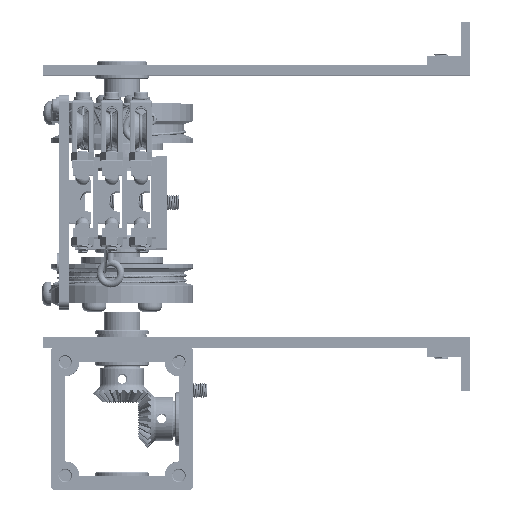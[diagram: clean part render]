
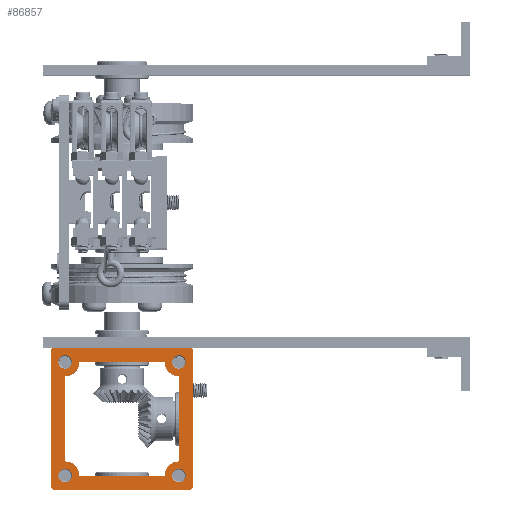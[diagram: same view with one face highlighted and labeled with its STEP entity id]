
A CAD part, top view. The second image highlights one B-rep face of the part: STEP entity #86857.
In plain terms, the highlighted planar face has unit normal (0, 0, 1) as drawn and (0, 0, -1) by its records, which use the part's own axes.
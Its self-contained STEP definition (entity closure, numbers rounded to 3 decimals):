
#75655=CARTESIAN_POINT('',(4.,8.,0.));
#75656=VERTEX_POINT('',#75655);
#75663=CARTESIAN_POINT('',(8.,4.,0.));
#75664=VERTEX_POINT('',#75663);
#75665=CARTESIAN_POINT('',(4.,4.,0.));
#75666=DIRECTION('',(1.,0.,0.));
#75667=DIRECTION('',(0.,0.,1.));
#75668=AXIS2_PLACEMENT_3D('',#75665,#75667,#75666);
#75669=CIRCLE('',#75668,4.);
#75670=EDGE_CURVE('',#75664,#75656,#75669,.T.);
#77447=CARTESIAN_POINT('',(4.,32.,0.));
#77448=VERTEX_POINT('',#77447);
#77449=CARTESIAN_POINT('',(8.,36.,0.));
#77450=VERTEX_POINT('',#77449);
#77451=CARTESIAN_POINT('',(4.,36.,0.));
#77452=DIRECTION('',(0.,-1.,0.));
#77453=DIRECTION('',(0.,-0.,1.));
#77454=AXIS2_PLACEMENT_3D('',#77451,#77453,#77452);
#77455=CIRCLE('',#77454,4.);
#77456=EDGE_CURVE('',#77448,#77450,#77455,.T.);
#78998=CARTESIAN_POINT('',(32.,36.,0.));
#78999=VERTEX_POINT('',#78998);
#79000=CARTESIAN_POINT('',(36.,32.,0.));
#79001=VERTEX_POINT('',#79000);
#79002=CARTESIAN_POINT('',(36.,36.,0.));
#79003=DIRECTION('',(-1.,0.,0.));
#79004=DIRECTION('',(0.,-0.,1.));
#79005=AXIS2_PLACEMENT_3D('',#79002,#79004,#79003);
#79006=CIRCLE('',#79005,4.);
#79007=EDGE_CURVE('',#78999,#79001,#79006,.T.);
#80556=CARTESIAN_POINT('',(36.,8.,0.));
#80557=VERTEX_POINT('',#80556);
#80558=CARTESIAN_POINT('',(32.,4.,0.));
#80559=VERTEX_POINT('',#80558);
#80560=CARTESIAN_POINT('',(36.,4.,0.));
#80561=DIRECTION('',(0.,1.,0.));
#80562=DIRECTION('',(0.,0.,1.));
#80563=AXIS2_PLACEMENT_3D('',#80560,#80562,#80561);
#80564=CIRCLE('',#80563,4.);
#80565=EDGE_CURVE('',#80557,#80559,#80564,.T.);
#82372=CARTESIAN_POINT('',(1.,0.,0.));
#82373=VERTEX_POINT('',#82372);
#82380=CARTESIAN_POINT('',(39.,0.,0.));
#82381=VERTEX_POINT('',#82380);
#82382=CARTESIAN_POINT('',(1.,0.,0.));
#82383=DIRECTION('',(1.,0.,0.));
#82384=VECTOR('',#82383,38.);
#82385=LINE('',#82382,#82384);
#82386=EDGE_CURVE('',#82373,#82381,#82385,.T.);
#82417=CARTESIAN_POINT('',(0.,1.,0.));
#82418=VERTEX_POINT('',#82417);
#82419=CARTESIAN_POINT('',(1.,1.,0.));
#82420=DIRECTION('',(-1.,0.,0.));
#82421=DIRECTION('',(-0.,0.,1.));
#82422=AXIS2_PLACEMENT_3D('',#82419,#82421,#82420);
#82423=CIRCLE('',#82422,1.);
#82424=EDGE_CURVE('',#82418,#82373,#82423,.T.);
#82450=CARTESIAN_POINT('',(40.,1.,0.));
#82451=VERTEX_POINT('',#82450);
#82452=CARTESIAN_POINT('',(39.,1.,0.));
#82453=DIRECTION('',(0.,-1.,0.));
#82454=DIRECTION('',(0.,-0.,1.));
#82455=AXIS2_PLACEMENT_3D('',#82452,#82454,#82453);
#82456=CIRCLE('',#82455,1.);
#82457=EDGE_CURVE('',#82381,#82451,#82456,.T.);
#82483=CARTESIAN_POINT('',(40.,39.,0.));
#82484=VERTEX_POINT('',#82483);
#82485=CARTESIAN_POINT('',(39.,40.,0.));
#82486=VERTEX_POINT('',#82485);
#82487=CARTESIAN_POINT('',(39.,39.,0.));
#82488=DIRECTION('',(1.,0.,0.));
#82489=DIRECTION('',(0.,0.,1.));
#82490=AXIS2_PLACEMENT_3D('',#82487,#82489,#82488);
#82491=CIRCLE('',#82490,1.);
#82492=EDGE_CURVE('',#82484,#82486,#82491,.T.);
#82525=CARTESIAN_POINT('',(1.,40.,0.));
#82526=VERTEX_POINT('',#82525);
#82527=CARTESIAN_POINT('',(0.,39.,0.));
#82528=VERTEX_POINT('',#82527);
#82529=CARTESIAN_POINT('',(1.,39.,0.));
#82530=DIRECTION('',(0.,1.,0.));
#82531=DIRECTION('',(0.,0.,1.));
#82532=AXIS2_PLACEMENT_3D('',#82529,#82531,#82530);
#82533=CIRCLE('',#82532,1.);
#82534=EDGE_CURVE('',#82526,#82528,#82533,.T.);
#85465=CARTESIAN_POINT('',(39.,40.,0.));
#85466=DIRECTION('',(-1.,0.,0.));
#85467=VECTOR('',#85466,38.);
#85468=LINE('',#85465,#85467);
#85469=EDGE_CURVE('',#82486,#82526,#85468,.T.);
#85507=CARTESIAN_POINT('',(8.,36.,0.));
#85508=DIRECTION('',(1.,0.,0.));
#85509=VECTOR('',#85508,24.);
#85510=LINE('',#85507,#85509);
#85511=EDGE_CURVE('',#77450,#78999,#85510,.T.);
#86763=CARTESIAN_POINT('',(20.,20.,0.));
#86764=DIRECTION('',(1.,0.,0.));
#86765=DIRECTION('',(0.,0.,1.));
#86766=AXIS2_PLACEMENT_3D('',#86763,#86765,#86764);
#86767=PLANE('',#86766);
#86768=CARTESIAN_POINT('',(40.,1.,0.));
#86769=DIRECTION('',(0.,1.,0.));
#86770=VECTOR('',#86769,38.);
#86771=LINE('',#86768,#86770);
#86772=EDGE_CURVE('',#82451,#82484,#86771,.T.);
#86773=ORIENTED_EDGE('E2',*,*,#86772,.T.);
#86774=ORIENTED_EDGE('E2',*,*,#82492,.T.);
#86775=ORIENTED_EDGE('E2',*,*,#85469,.T.);
#86776=ORIENTED_EDGE('E2',*,*,#82534,.T.);
#86777=CARTESIAN_POINT('',(0.,39.,0.));
#86778=DIRECTION('',(0.,-1.,0.));
#86779=VECTOR('',#86778,38.);
#86780=LINE('',#86777,#86779);
#86781=EDGE_CURVE('',#82528,#82418,#86780,.T.);
#86782=ORIENTED_EDGE('E4',*,*,#86781,.T.);
#86783=ORIENTED_EDGE('E4',*,*,#82424,.T.);
#86784=ORIENTED_EDGE('E4',*,*,#82386,.T.);
#86785=ORIENTED_EDGE('E4',*,*,#82457,.T.);
#86786=EDGE_LOOP('',(#86773,#86774,#86775,#86776,#86782,#86783,#86784,#86785));
#86787=FACE_OUTER_BOUND('',#86786,.F.);
#86788=CARTESIAN_POINT('',(32.,4.,0.));
#86789=DIRECTION('',(-1.,0.,0.));
#86790=VECTOR('',#86789,24.);
#86791=LINE('',#86788,#86790);
#86792=EDGE_CURVE('',#80559,#75664,#86791,.T.);
#86793=ORIENTED_EDGE('E16',*,*,#86792,.T.);
#86794=ORIENTED_EDGE('E16',*,*,#75670,.T.);
#86795=CARTESIAN_POINT('',(4.,8.,0.));
#86796=DIRECTION('',(0.,1.,0.));
#86797=VECTOR('',#86796,24.);
#86798=LINE('',#86795,#86797);
#86799=EDGE_CURVE('',#75656,#77448,#86798,.T.);
#86800=ORIENTED_EDGE('E13',*,*,#86799,.T.);
#86801=ORIENTED_EDGE('E13',*,*,#77456,.T.);
#86802=ORIENTED_EDGE('E13',*,*,#85511,.T.);
#86803=ORIENTED_EDGE('E13',*,*,#79007,.T.);
#86804=CARTESIAN_POINT('',(36.,32.,0.));
#86805=DIRECTION('',(0.,-1.,0.));
#86806=VECTOR('',#86805,24.);
#86807=LINE('',#86804,#86806);
#86808=EDGE_CURVE('',#79001,#80557,#86807,.T.);
#86809=ORIENTED_EDGE('E15',*,*,#86808,.T.);
#86810=ORIENTED_EDGE('E15',*,*,#80565,.T.);
#86811=EDGE_LOOP('',(#86793,#86794,#86800,#86801,#86802,#86803,#86809,#86810));
#86812=FACE_BOUND('',#86811,.F.);
#86813=CARTESIAN_POINT('',(36.,34.1,0.));
#86814=VERTEX_POINT('',#86813);
#86815=CARTESIAN_POINT('',(36.,36.,0.));
#86816=DIRECTION('',(-0.,-1.,-0.));
#86817=DIRECTION('',(0.,0.,-1.));
#86818=AXIS2_PLACEMENT_3D('',#86815,#86817,#86816);
#86819=CIRCLE('',#86818,1.9);
#86820=EDGE_CURVE('',#86814,#86814,#86819,.T.);
#86821=ORIENTED_EDGE('E1848',*,*,#86820,.T.);
#86822=EDGE_LOOP('',(#86821));
#86823=FACE_BOUND('',#86822,.F.);
#86824=CARTESIAN_POINT('',(4.,34.1,0.));
#86825=VERTEX_POINT('',#86824);
#86826=CARTESIAN_POINT('',(4.,36.,0.));
#86827=DIRECTION('',(0.,-1.,-0.));
#86828=DIRECTION('',(-0.,0.,-1.));
#86829=AXIS2_PLACEMENT_3D('',#86826,#86828,#86827);
#86830=CIRCLE('',#86829,1.9);
#86831=EDGE_CURVE('',#86825,#86825,#86830,.T.);
#86832=ORIENTED_EDGE('E1851',*,*,#86831,.T.);
#86833=EDGE_LOOP('',(#86832));
#86834=FACE_BOUND('',#86833,.F.);
#86835=CARTESIAN_POINT('',(4.,2.1,0.));
#86836=VERTEX_POINT('',#86835);
#86837=CARTESIAN_POINT('',(4.,4.,0.));
#86838=DIRECTION('',(0.,-1.,-0.));
#86839=DIRECTION('',(0.,0.,-1.));
#86840=AXIS2_PLACEMENT_3D('',#86837,#86839,#86838);
#86841=CIRCLE('',#86840,1.9);
#86842=EDGE_CURVE('',#86836,#86836,#86841,.T.);
#86843=ORIENTED_EDGE('E1854',*,*,#86842,.T.);
#86844=EDGE_LOOP('',(#86843));
#86845=FACE_BOUND('',#86844,.F.);
#86846=CARTESIAN_POINT('',(36.,2.1,0.));
#86847=VERTEX_POINT('',#86846);
#86848=CARTESIAN_POINT('',(36.,4.,0.));
#86849=DIRECTION('',(-0.,-1.,-0.));
#86850=DIRECTION('',(0.,0.,-1.));
#86851=AXIS2_PLACEMENT_3D('',#86848,#86850,#86849);
#86852=CIRCLE('',#86851,1.9);
#86853=EDGE_CURVE('',#86847,#86847,#86852,.T.);
#86854=ORIENTED_EDGE('E1857',*,*,#86853,.T.);
#86855=EDGE_LOOP('',(#86854));
#86856=FACE_BOUND('',#86855,.F.);
#86857=ADVANCED_FACE('F1',(#86787,#86812,#86823,#86834,#86845,#86856),#86767,.F.);
